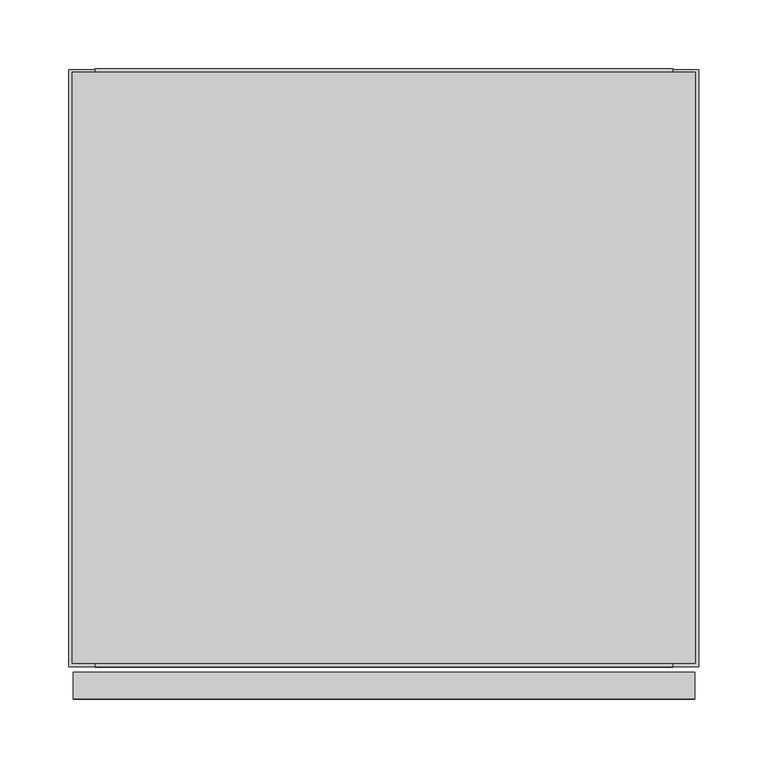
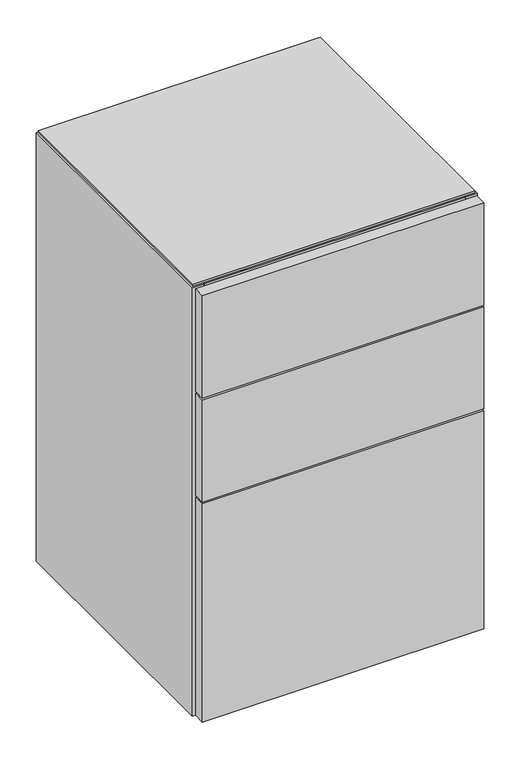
"""IFC4 building model written with IfcOpenShell, lengths in millimetres: furniture geometry, Geiger_GeigerOneCasegoods_LowStorage2Box1File : Vertical Veneer 18Wx18Dx28.75H."""

from ifc_helpers import new_model, si_unit, point, frame, origin, place, context, project, spatial, polyline, circle_curve, ellipse_curve, trimmed, outline, extrude, source, transform, mapped, element, save
from ifc_brep_helpers import plane_surface, cylinder_surface, revolved_surface, advanced_brep


def furniture_eb95eba2(model_context):
    return source(origin(), model_context, "Body", "SolidModel", [
        extrude(outline(polyline([(19.0, -19.5), (438.2, -19.5), (438.2, -434.0), (19.0, -434.0), (19.0, -19.5)])), frame((0.0, 0.0, 73.2), z_axis=(0.0, 0.0, 1.0), x_axis=(1.0, 0.0, 0.0)), (0.0, 0.0, 1.0), 19.5072),
        extrude(outline(polyline([(3.0, -438.0), (454.2, -438.0), (454.2, -457.2), (3.0, -457.2), (3.0, -438.0)])), frame((0.0, 0.0, 15.7), z_axis=(0.0, 0.0, 1.0), x_axis=(1.0, 0.0, 0.0)), (0.0, 0.0, 1.0), 370.0),
        extrude(outline(polyline([(3.0, -438.0), (454.2, -438.0), (454.2, -457.2), (3.0, -457.2), (3.0, -438.0)])), frame((0.0, 0.0, 388.7), z_axis=(0.0, 0.0, 1.0), x_axis=(1.0, 0.0, 0.0)), (0.0, 0.0, 1.0), 173.0),
        extrude(outline(polyline([(3.0, -438.0), (454.2, -438.0), (454.2, -457.2), (3.0, -457.2), (3.0, -438.0)])), frame((0.0, 0.0, 564.7), z_axis=(0.0, 0.0, 1.0), x_axis=(1.0, 0.0, 0.0)), (0.0, 0.0, 1.0), 174.0),
        extrude(outline(polyline([(19.0, -19.5), (438.2, -19.5), (438.2, -414.5), (19.0, -414.5), (19.0, -19.5)])), frame((0.0, 0.0, 12.7), z_axis=(0.0, 0.0, 1.0), x_axis=(1.0, 0.0, 0.0)), (0.0, 0.0, 1.0), 19.5),
        extrude(outline(polyline([(454.66, -2.54), (454.66, -431.46), (2.54, -431.46), (2.54, -2.54), (454.66, -2.54)])), frame((0.0, 0.0, 739.5), z_axis=(0.0, 0.0, 1.0), x_axis=(1.0, 0.0, 0.0)), (0.0, 0.0, 1.0), 3.2766),
        extrude(outline(polyline([(19.0, -95.7), (438.2, -95.7), (438.2, -434.0), (19.0, -434.0), (19.0, -95.7)])), frame((0.0, 0.0, 720.0), z_axis=(0.0, 0.0, 1.0), x_axis=(1.0, 0.0, 0.0)), (0.0, 0.0, 1.0), 19.5),
        extrude(outline(polyline([(438.2, -19.5), (19.0, -19.5), (19.0, 0.0), (438.2, 0.0), (438.2, -19.5)])), frame((0.0, 0.0, 12.7), z_axis=(0.0, 0.0, 1.0), x_axis=(1.0, 0.0, 0.0)), (0.0, 0.0, 1.0), 726.8),
        extrude(outline(polyline([(19.0, -414.5), (438.2, -414.5), (438.2, -434.0), (19.0, -434.0), (19.0, -414.5)])), frame((0.0, 0.0, 12.7), z_axis=(0.0, 0.0, 1.0), x_axis=(1.0, 0.0, 0.0)), (0.0, 0.0, 1.0), 60.5),
        extrude(outline(polyline([(19.0, -434.0), (0.0, -434.0), (0.0, -0.5), (19.0, -0.5), (19.0, -434.0)])), frame((0.0, 0.0, 12.7), z_axis=(0.0, 0.0, 1.0), x_axis=(1.0, 0.0, 0.0)), (0.0, 0.0, 1.0), 726.8),
        extrude(outline(polyline([(457.2, -434.0), (438.2, -434.0), (438.2, -0.5), (457.2, -0.5), (457.2, -434.0)])), frame((0.0, 0.0, 12.7), z_axis=(0.0, 0.0, 1.0), x_axis=(1.0, 0.0, 0.0)), (0.0, 0.0, 1.0), 726.8),
        advanced_brep(
        [(94.0575663, -376.5165105, 0.0), (71.9424337, -376.5165105, 0.0), (83.0, -376.5165105, 0.0), (94.0575663, -376.5165105, 9.5), (71.9424337, -376.5165105, 9.5), (87.066455, -376.5165105, 9.5), (78.933545, -376.5165105, 9.5), (87.066455, -376.5165105, 12.7), (78.933545, -376.5165105, 12.7), (83.0, -376.5165105, 12.7)],
        [
            (0, 1, circle_curve(frame((83.0, -376.5165105, 0.0), z_axis=(0.0, 0.0, -1.0), x_axis=(-1.0, 0.0, 0.0)), 11.0575663)),
            (1, 2),
            (2, 0),
            (1, 0, circle_curve(frame((83.0, -376.5165105, 0.0), z_axis=(0.0, 0.0, -1.0), x_axis=(-1.0, 0.0, 0.0)), 11.0575663)),
            (0, 3, circle_curve(frame((94.0575663, -376.5165105, 4.75), z_axis=(0.0, -1.0, 0.0), x_axis=(1.0, 0.0, 0.0)), 4.75)),
            (3, 4, circle_curve(frame((83.0, -376.5165105, 9.5), z_axis=(0.0, 0.0, -1.0), x_axis=(-1.0, 0.0, 0.0)), 11.0575663)),
            (4, 1, circle_curve(frame((71.9424337, -376.5165105, 4.75), z_axis=(0.0, -1.0, 0.0), x_axis=(-1.0, 0.0, 0.0)), 4.75)),
            (4, 3, circle_curve(frame((83.0, -376.5165105, 9.5), z_axis=(0.0, 0.0, -1.0), x_axis=(-1.0, 0.0, 0.0)), 11.0575663)),
            (3, 5),
            (5, 6, circle_curve(frame((83.0, -376.5165105, 9.5), z_axis=(0.0, 0.0, -1.0), x_axis=(-1.0, 0.0, 0.0)), 4.066455)),
            (6, 4),
            (6, 5, circle_curve(frame((83.0, -376.5165105, 9.5), z_axis=(0.0, 0.0, -1.0), x_axis=(-1.0, 0.0, 0.0)), 4.066455)),
            (5, 7),
            (7, 8, circle_curve(frame((83.0, -376.5165105, 12.7), z_axis=(0.0, 0.0, -1.0), x_axis=(-1.0, 0.0, 0.0)), 4.066455)),
            (8, 6),
            (8, 7, circle_curve(frame((83.0, -376.5165105, 12.7), z_axis=(0.0, 0.0, -1.0), x_axis=(-1.0, 0.0, 0.0)), 4.066455)),
            (7, 9),
            (9, 8),
        ],
        [
            plane_surface(frame((83.0, -376.5165105, 0.0), z_axis=(0.0, 0.0, -1.0), x_axis=(-1.0, 0.0, 0.0))),
            revolved_surface(trimmed(ellipse_curve(frame((71.9424337, -376.5165105, 4.75), z_axis=(0.0, 1.0, 0.0), x_axis=(-1.0, 0.0, 0.0)), 4.75, 4.75), [point((71.9424337, -376.5165105, 0.0))], [point((71.9424337, -376.5165105, 9.5))], True, "CARTESIAN"), (83.0, -376.5165105, 0.0), (0.0, 0.0, 1.0)),
            plane_surface(frame((83.0, -376.5165105, 9.5), z_axis=(0.0, 0.0, 1.0), x_axis=(-1.0, 0.0, 0.0))),
            cylinder_surface(frame((83.0, -376.5165105, 0.0), z_axis=(0.0, 0.0, 1.0), x_axis=(-1.0, 0.0, 0.0)), 4.066455),
            plane_surface(frame((83.0, -376.5165105, 12.7), z_axis=(0.0, 0.0, 1.0), x_axis=(-1.0, 0.0, 0.0))),
        ],
        [
            (0, [[1, 2, 3]]),
            (0, [[-2, 4, -3]]),
            (1, [[-1, 5, 6, 7]]),
            (1, [[-4, -7, 8, -5]]),
            (2, [[-6, 9, 10, 11]]),
            (2, [[-8, -11, 12, -9]]),
            (3, [[-10, 13, 14, 15]]),
            (3, [[-12, -15, 16, -13]]),
            (4, [[-14, 17, 18]]),
            (4, [[-16, -18, -17]]),
        ],
    ),
        advanced_brep(
        [(94.0575663, -127.0, 0.0), (71.9424337, -127.0, 0.0), (83.0, -127.0, 0.0), (94.0575663, -127.0, 9.5), (71.9424337, -127.0, 9.5), (87.066455, -127.0, 9.5), (78.933545, -127.0, 9.5), (87.066455, -127.0, 12.7), (78.933545, -127.0, 12.7), (83.0, -127.0, 12.7)],
        [
            (0, 1, circle_curve(frame((83.0, -127.0, 0.0), z_axis=(0.0, 0.0, -1.0), x_axis=(-1.0, 0.0, 0.0)), 11.0575663)),
            (1, 2),
            (2, 0),
            (1, 0, circle_curve(frame((83.0, -127.0, 0.0), z_axis=(0.0, 0.0, -1.0), x_axis=(-1.0, 0.0, 0.0)), 11.0575663)),
            (0, 3, circle_curve(frame((94.0575663, -127.0, 4.75), z_axis=(0.0, -1.0, 0.0), x_axis=(1.0, 0.0, 0.0)), 4.75)),
            (3, 4, circle_curve(frame((83.0, -127.0, 9.5), z_axis=(0.0, 0.0, -1.0), x_axis=(-1.0, 0.0, 0.0)), 11.0575663)),
            (4, 1, circle_curve(frame((71.9424337, -127.0, 4.75), z_axis=(0.0, -1.0, 0.0), x_axis=(-1.0, 0.0, 0.0)), 4.75)),
            (4, 3, circle_curve(frame((83.0, -127.0, 9.5), z_axis=(0.0, 0.0, -1.0), x_axis=(-1.0, 0.0, 0.0)), 11.0575663)),
            (3, 5),
            (5, 6, circle_curve(frame((83.0, -127.0, 9.5), z_axis=(0.0, 0.0, -1.0), x_axis=(-1.0, 0.0, 0.0)), 4.066455)),
            (6, 4),
            (6, 5, circle_curve(frame((83.0, -127.0, 9.5), z_axis=(0.0, 0.0, -1.0), x_axis=(-1.0, 0.0, 0.0)), 4.066455)),
            (5, 7),
            (7, 8, circle_curve(frame((83.0, -127.0, 12.7), z_axis=(0.0, 0.0, -1.0), x_axis=(-1.0, 0.0, 0.0)), 4.066455)),
            (8, 6),
            (8, 7, circle_curve(frame((83.0, -127.0, 12.7), z_axis=(0.0, 0.0, -1.0), x_axis=(-1.0, 0.0, 0.0)), 4.066455)),
            (7, 9),
            (9, 8),
        ],
        [
            plane_surface(frame((83.0, -127.0, 0.0), z_axis=(0.0, 0.0, -1.0), x_axis=(-1.0, 0.0, 0.0))),
            revolved_surface(trimmed(ellipse_curve(frame((71.9424337, -127.0, 4.75), z_axis=(0.0, 1.0, 0.0), x_axis=(-1.0, 0.0, 0.0)), 4.75, 4.75), [point((71.9424337, -127.0, 0.0))], [point((71.9424337, -127.0, 9.5))], True, "CARTESIAN"), (83.0, -127.0, 0.0), (0.0, 0.0, 1.0)),
            plane_surface(frame((83.0, -127.0, 9.5), z_axis=(0.0, 0.0, 1.0), x_axis=(-1.0, 0.0, 0.0))),
            cylinder_surface(frame((83.0, -127.0, 0.0), z_axis=(0.0, 0.0, 1.0), x_axis=(-1.0, 0.0, 0.0)), 4.066455),
            plane_surface(frame((83.0, -127.0, 12.7), z_axis=(0.0, 0.0, 1.0), x_axis=(-1.0, 0.0, 0.0))),
        ],
        [
            (0, [[1, 2, 3]]),
            (0, [[-2, 4, -3]]),
            (1, [[-1, 5, 6, 7]]),
            (1, [[-4, -7, 8, -5]]),
            (2, [[-6, 9, 10, 11]]),
            (2, [[-8, -11, 12, -9]]),
            (3, [[-10, 13, 14, 15]]),
            (3, [[-12, -15, 16, -13]]),
            (4, [[-14, 17, 18]]),
            (4, [[-16, -18, -17]]),
        ],
    ),
        advanced_brep(
        [(374.2, -376.5165105, 0.0), (385.2575663, -376.5165105, 0.0), (363.1424337, -376.5165105, 0.0), (385.2575663, -376.5165105, 9.5), (363.1424337, -376.5165105, 9.5), (378.266455, -376.5165105, 9.5), (370.133545, -376.5165105, 9.5), (378.266455, -376.5165105, 12.7), (370.133545, -376.5165105, 12.7), (374.2, -376.5165105, 12.7)],
        [
            (0, 1),
            (1, 2, circle_curve(frame((374.2, -376.5165105, 0.0), z_axis=(0.0, 0.0, -1.0), x_axis=(1.0, 0.0, 0.0)), 11.0575663)),
            (2, 0),
            (2, 1, circle_curve(frame((374.2, -376.5165105, 0.0), z_axis=(0.0, 0.0, -1.0), x_axis=(1.0, 0.0, 0.0)), 11.0575663)),
            (1, 3, circle_curve(frame((385.2575663, -376.5165105, 4.75), z_axis=(0.0, -1.0, 0.0), x_axis=(-1.0, 0.0, 0.0)), 4.75)),
            (3, 4, circle_curve(frame((374.2, -376.5165105, 9.5), z_axis=(0.0, 0.0, -1.0), x_axis=(1.0, 0.0, 0.0)), 11.0575663)),
            (4, 2, circle_curve(frame((363.1424337, -376.5165105, 4.75), z_axis=(0.0, -1.0, 0.0), x_axis=(1.0, 0.0, 0.0)), 4.75)),
            (4, 3, circle_curve(frame((374.2, -376.5165105, 9.5), z_axis=(0.0, 0.0, -1.0), x_axis=(1.0, 0.0, 0.0)), 11.0575663)),
            (3, 5),
            (5, 6, circle_curve(frame((374.2, -376.5165105, 9.5), z_axis=(0.0, 0.0, -1.0), x_axis=(1.0, 0.0, 0.0)), 4.066455)),
            (6, 4),
            (6, 5, circle_curve(frame((374.2, -376.5165105, 9.5), z_axis=(0.0, 0.0, -1.0), x_axis=(1.0, 0.0, 0.0)), 4.066455)),
            (5, 7),
            (7, 8, circle_curve(frame((374.2, -376.5165105, 12.7), z_axis=(0.0, 0.0, -1.0), x_axis=(1.0, 0.0, 0.0)), 4.066455)),
            (8, 6),
            (8, 7, circle_curve(frame((374.2, -376.5165105, 12.7), z_axis=(0.0, 0.0, -1.0), x_axis=(1.0, 0.0, 0.0)), 4.066455)),
            (7, 9),
            (9, 8),
        ],
        [
            plane_surface(frame((374.2, -376.5165105, 0.0), z_axis=(0.0, 0.0, -1.0), x_axis=(1.0, 0.0, 0.0))),
            revolved_surface(trimmed(ellipse_curve(frame((385.2575663, -376.5165105, 4.75), z_axis=(0.0, 1.0, 0.0), x_axis=(-1.0, 0.0, 0.0)), 4.75, 4.75), [point((385.2575663, -376.5165105, 9.5))], [point((385.2575663, -376.5165105, 0.0))], True, "CARTESIAN"), (374.2, -376.5165105, 0.0), (0.0, 0.0, -1.0)),
            plane_surface(frame((374.2, -376.5165105, 9.5), z_axis=(0.0, 0.0, 1.0), x_axis=(1.0, 0.0, 0.0))),
            cylinder_surface(frame((374.2, -376.5165105, 0.0), z_axis=(0.0, 0.0, -1.0), x_axis=(1.0, 0.0, 0.0)), 4.066455),
            plane_surface(frame((374.2, -376.5165105, 12.7), z_axis=(0.0, 0.0, 1.0), x_axis=(1.0, 0.0, 0.0))),
        ],
        [
            (0, [[1, 2, 3]]),
            (0, [[-1, -3, 4]]),
            (1, [[-2, 5, 6, 7]]),
            (1, [[-4, -7, 8, -5]]),
            (2, [[-6, 9, 10, 11]]),
            (2, [[-8, -11, 12, -9]]),
            (3, [[-10, 13, 14, 15]]),
            (3, [[-12, -15, 16, -13]]),
            (4, [[-14, 17, 18]]),
            (4, [[-16, -18, -17]]),
        ],
    ),
        advanced_brep(
        [(374.2, -127.0, 0.0), (385.2575663, -127.0, 0.0), (363.1424337, -127.0, 0.0), (385.2575663, -127.0, 9.5), (363.1424337, -127.0, 9.5), (378.266455, -127.0, 9.5), (370.133545, -127.0, 9.5), (378.266455, -127.0, 12.7), (370.133545, -127.0, 12.7), (374.2, -127.0, 12.7)],
        [
            (0, 1),
            (1, 2, circle_curve(frame((374.2, -127.0, 0.0), z_axis=(0.0, 0.0, -1.0), x_axis=(1.0, 0.0, 0.0)), 11.0575663)),
            (2, 0),
            (2, 1, circle_curve(frame((374.2, -127.0, 0.0), z_axis=(0.0, 0.0, -1.0), x_axis=(1.0, 0.0, 0.0)), 11.0575663)),
            (1, 3, circle_curve(frame((385.2575663, -127.0, 4.75), z_axis=(0.0, -1.0, 0.0), x_axis=(-1.0, 0.0, 0.0)), 4.75)),
            (3, 4, circle_curve(frame((374.2, -127.0, 9.5), z_axis=(0.0, 0.0, -1.0), x_axis=(1.0, 0.0, 0.0)), 11.0575663)),
            (4, 2, circle_curve(frame((363.1424337, -127.0, 4.75), z_axis=(0.0, -1.0, 0.0), x_axis=(1.0, 0.0, 0.0)), 4.75)),
            (4, 3, circle_curve(frame((374.2, -127.0, 9.5), z_axis=(0.0, 0.0, -1.0), x_axis=(1.0, 0.0, 0.0)), 11.0575663)),
            (3, 5),
            (5, 6, circle_curve(frame((374.2, -127.0, 9.5), z_axis=(0.0, 0.0, -1.0), x_axis=(1.0, 0.0, 0.0)), 4.066455)),
            (6, 4),
            (6, 5, circle_curve(frame((374.2, -127.0, 9.5), z_axis=(0.0, 0.0, -1.0), x_axis=(1.0, 0.0, 0.0)), 4.066455)),
            (5, 7),
            (7, 8, circle_curve(frame((374.2, -127.0, 12.7), z_axis=(0.0, 0.0, -1.0), x_axis=(1.0, 0.0, 0.0)), 4.066455)),
            (8, 6),
            (8, 7, circle_curve(frame((374.2, -127.0, 12.7), z_axis=(0.0, 0.0, -1.0), x_axis=(1.0, 0.0, 0.0)), 4.066455)),
            (7, 9),
            (9, 8),
        ],
        [
            plane_surface(frame((374.2, -127.0, 0.0), z_axis=(0.0, 0.0, -1.0), x_axis=(1.0, 0.0, 0.0))),
            revolved_surface(trimmed(ellipse_curve(frame((385.2575663, -127.0, 4.75), z_axis=(0.0, 1.0, 0.0), x_axis=(-1.0, 0.0, 0.0)), 4.75, 4.75), [point((385.2575663, -127.0, 9.5))], [point((385.2575663, -127.0, 0.0))], True, "CARTESIAN"), (374.2, -127.0, 0.0), (0.0, 0.0, -1.0)),
            plane_surface(frame((374.2, -127.0, 9.5), z_axis=(0.0, 0.0, 1.0), x_axis=(1.0, 0.0, 0.0))),
            cylinder_surface(frame((374.2, -127.0, 0.0), z_axis=(0.0, 0.0, -1.0), x_axis=(1.0, 0.0, 0.0)), 4.066455),
            plane_surface(frame((374.2, -127.0, 12.7), z_axis=(0.0, 0.0, 1.0), x_axis=(1.0, 0.0, 0.0))),
        ],
        [
            (0, [[1, 2, 3]]),
            (0, [[-1, -3, 4]]),
            (1, [[-2, 5, 6, 7]]),
            (1, [[-4, -7, 8, -5]]),
            (2, [[-6, 9, 10, 11]]),
            (2, [[-8, -11, 12, -9]]),
            (3, [[-10, 13, 14, 15]]),
            (3, [[-12, -15, 16, -13]]),
            (4, [[-14, 17, 18]]),
            (4, [[-16, -18, -17]]),
        ],
    ),
    ])


if __name__ == "__main__":
    model = new_model("IFC4")
    model_context = context("Model", 3, world=origin())
    ifc_project = project(units=[si_unit("LENGTHUNIT", "METRE", prefix="MILLI")], contexts=[model_context])
    site = spatial("IfcSite", under=ifc_project)
    building = spatial("IfcBuilding", under=site)
    placement = place(None, origin())
    furniture_shape = furniture_eb95eba2(model_context)
    element("IfcFurniture", 1, ObjectType="Geiger_GeigerOneCasegoods_LowStorage2Box1File : Vertical Veneer 18Wx18Dx28.75H", at=placement, inside=building, context=model_context, shape_type="MappedRepresentation", body=[
        mapped(furniture_shape, transform((0.0, 0.0, 0.0), x_axis=(1.0, 0.0, 0.0), y_axis=(0.0, 1.0, 0.0), z_axis=(0.0, 0.0, 1.0))),
    ])
    save(model, "model.ifc")
